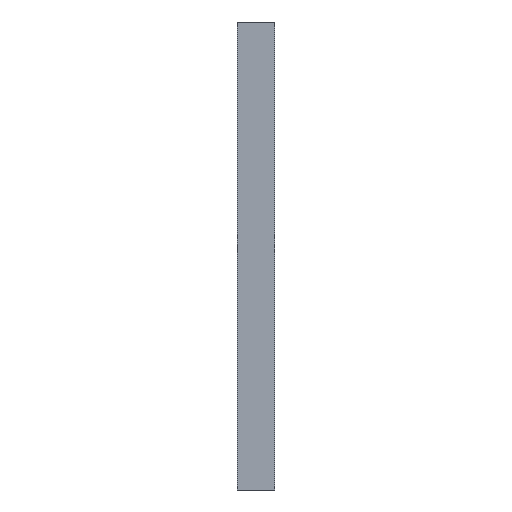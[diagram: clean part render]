
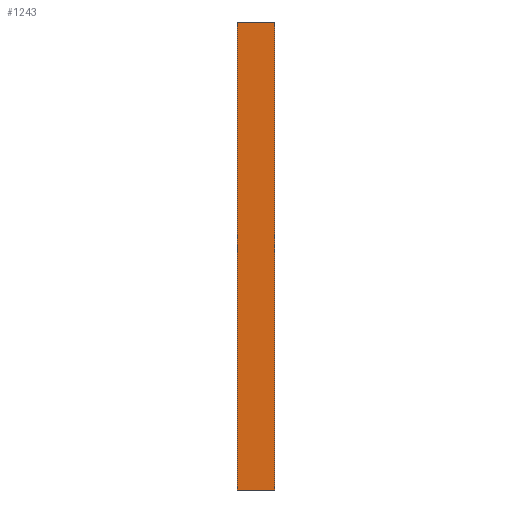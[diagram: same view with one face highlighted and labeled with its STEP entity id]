
A CAD part, left-side view. The second image highlights one B-rep face of the part: STEP entity #1243.
In plain terms, the highlighted planar face has unit normal (-1, 0, 0).
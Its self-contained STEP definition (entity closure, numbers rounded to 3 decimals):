
#111=PLANE('',#1418);
#166=FACE_OUTER_BOUND('',#222,.T.);
#222=EDGE_LOOP('',(#1014,#1015,#1016,#1017));
#374=LINE('',#2094,#438);
#375=LINE('',#2096,#439);
#376=LINE('',#2098,#440);
#377=LINE('',#2099,#441);
#438=VECTOR('',#1768,10.);
#439=VECTOR('',#1769,10.);
#440=VECTOR('',#1770,10.);
#441=VECTOR('',#1771,10.);
#648=VERTEX_POINT('',#2092);
#649=VERTEX_POINT('',#2093);
#650=VERTEX_POINT('',#2095);
#651=VERTEX_POINT('',#2097);
#804=EDGE_CURVE('',#648,#649,#374,.T.);
#805=EDGE_CURVE('',#649,#650,#375,.T.);
#806=EDGE_CURVE('',#651,#650,#376,.T.);
#807=EDGE_CURVE('',#648,#651,#377,.T.);
#1014=ORIENTED_EDGE('',*,*,#804,.T.);
#1015=ORIENTED_EDGE('',*,*,#805,.T.);
#1016=ORIENTED_EDGE('',*,*,#806,.F.);
#1017=ORIENTED_EDGE('',*,*,#807,.F.);
#1243=ADVANCED_FACE('',(#166),#111,.T.);
#1418=AXIS2_PLACEMENT_3D('',#2091,#1766,#1767);
#1766=DIRECTION('center_axis',(-1.,0.,0.));
#1767=DIRECTION('ref_axis',(0.,0.,1.));
#1768=DIRECTION('',(0.,0.,1.));
#1769=DIRECTION('',(0.,1.,0.));
#1770=DIRECTION('',(0.,0.,1.));
#1771=DIRECTION('',(0.,1.,0.));
#2091=CARTESIAN_POINT('Origin',(-250.,0.,-125.));
#2092=CARTESIAN_POINT('',(-250.,0.,-125.));
#2093=CARTESIAN_POINT('',(-250.,0.,0.));
#2094=CARTESIAN_POINT('',(-250.,0.,-125.));
#2095=CARTESIAN_POINT('',(-250.,10.,0.));
#2096=CARTESIAN_POINT('',(-250.,0.,0.));
#2097=CARTESIAN_POINT('',(-250.,10.,-125.));
#2098=CARTESIAN_POINT('',(-250.,10.,-125.));
#2099=CARTESIAN_POINT('',(-250.,0.,-125.));
